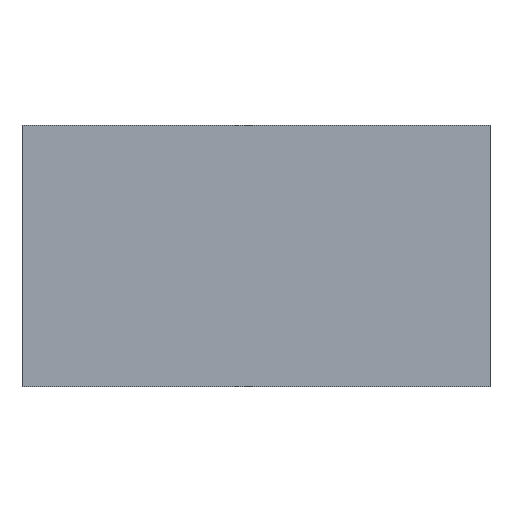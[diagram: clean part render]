
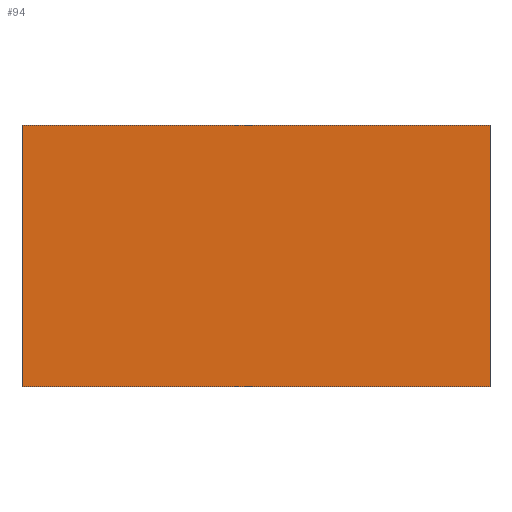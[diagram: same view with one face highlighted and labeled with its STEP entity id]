
A CAD part, front view. The second image highlights one B-rep face of the part: STEP entity #94.
In plain terms, the highlighted planar face has unit normal (0, -1, 0).
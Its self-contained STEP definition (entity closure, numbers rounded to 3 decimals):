
#94=ADVANCED_FACE('',(#234),#235,.T.);
#234=FACE_OUTER_BOUND('',#427,.T.);
#235=PLANE('',#428);
#427=EDGE_LOOP('',(#635,#636,#637,#638));
#428=AXIS2_PLACEMENT_3D('',#639,#640,#641);
#635=ORIENTED_EDGE('',*,*,#1137,.T.);
#636=ORIENTED_EDGE('',*,*,#1133,.T.);
#637=ORIENTED_EDGE('',*,*,#1129,.T.);
#638=ORIENTED_EDGE('',*,*,#1125,.T.);
#639=CARTESIAN_POINT('',(-6.5,-1.0,-14.));
#640=DIRECTION('',(0.,-1.0,0.0));
#641=DIRECTION('',(0.0,0.0,1.0));
#1125=EDGE_CURVE('',#1334,#1332,#1335,.T.);
#1129=EDGE_CURVE('',#1340,#1334,#1341,.T.);
#1133=EDGE_CURVE('',#1346,#1340,#1347,.T.);
#1137=EDGE_CURVE('',#1332,#1346,#1351,.T.);
#1332=VERTEX_POINT('',#1637);
#1334=VERTEX_POINT('',#1640);
#1335=LINE('',#1641,#1642);
#1340=VERTEX_POINT('',#1649);
#1341=LINE('',#1650,#1651);
#1346=VERTEX_POINT('',#1658);
#1347=LINE('',#1659,#1660);
#1351=LINE('',#1666,#1667);
#1637=CARTESIAN_POINT('',(17.0,-1.,2.5));
#1640=CARTESIAN_POINT('',(17.0,-1.,-30.5));
#1641=CARTESIAN_POINT('',(17.0,-1.,2.5));
#1642=VECTOR('',#2038,1.0);
#1649=CARTESIAN_POINT('',(-42.0,-1.,-30.5));
#1650=CARTESIAN_POINT('',(17.0,-1.,-30.5));
#1651=VECTOR('',#2041,1.0);
#1658=CARTESIAN_POINT('',(-42.0,-1.,2.5));
#1659=CARTESIAN_POINT('',(-42.0,-1.,-30.5));
#1660=VECTOR('',#2044,1.0);
#1666=CARTESIAN_POINT('',(-30.0,-1.0,2.5));
#1667=VECTOR('',#2047,1.0);
#2038=DIRECTION('',(0.0,0.0,1.0));
#2041=DIRECTION('',(1.0,0.,0.0));
#2044=DIRECTION('',(-0.0,0.0,-1.0));
#2047=DIRECTION('',(-1.0,0.,0.0));
